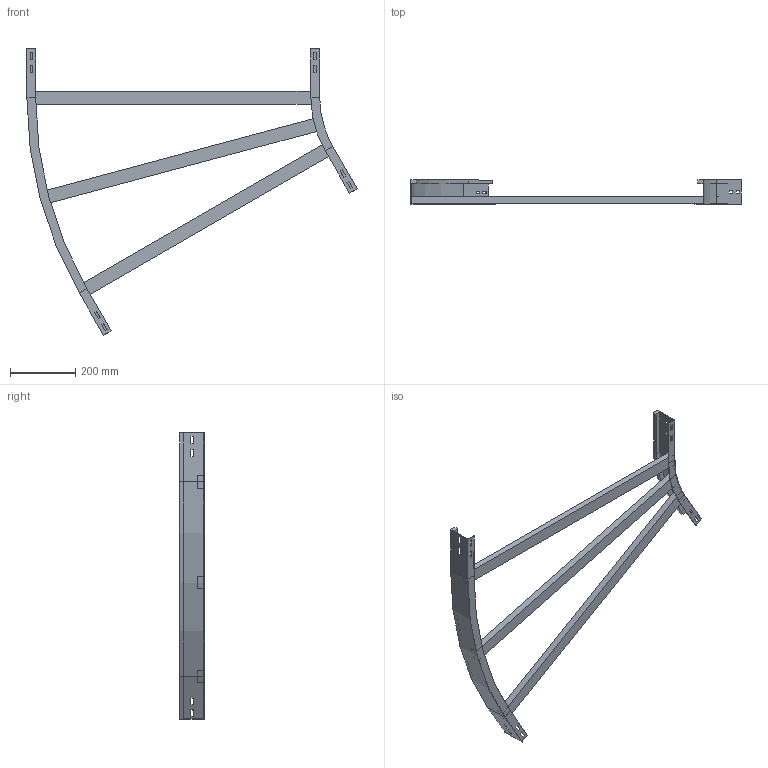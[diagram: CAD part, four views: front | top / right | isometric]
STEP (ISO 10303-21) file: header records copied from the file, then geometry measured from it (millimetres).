
FILE_DESCRIPTION (( 'STEP AP214' ), '1' );
FILE_NAME ('A2_12B3C900.step', '2025-02-21T15:10:59', ( '' ), ( '' ), 'SwSTEP 2.0', 'SolidWorks 2023', '' );
FILE_SCHEMA (( 'AUTOMOTIVE_DESIGN' ));
Length unit declared in the file: millimetre
Products named in the file (4): TRAVERSINO_900; A2_LONGH.INTERNO 30°_H75_R300; A2_12B3C900; A2_LONGH.ESTERNO 30°_H75_R300+900
Assembly tree (5 placements, depth 2):
  A2_12B3C900
    A2_LONGH.INTERNO 30°_H75_R300
    A2_LONGH.ESTERNO 30°_H75_R300+900
    TRAVERSINO_900  x3
Bounding box: 1015.19 x 75 x 879.9 mm (x, y, z)
Volume: 2715428.1 mm3; surface area: 655558 mm2
Topology: 5 solids, 5 shells, 134 faces, 340 edges, 216 vertices
Faces by surface type: plane 126, cylinder 8
Entity records: 3821 total; most frequent: CARTESIAN_POINT 646, ORIENTED_EDGE 632, DIRECTION 592, EDGE_CURVE 316, LINE 300, VECTOR 300, VERTEX_POINT 200, EDGE_LOOP 154
